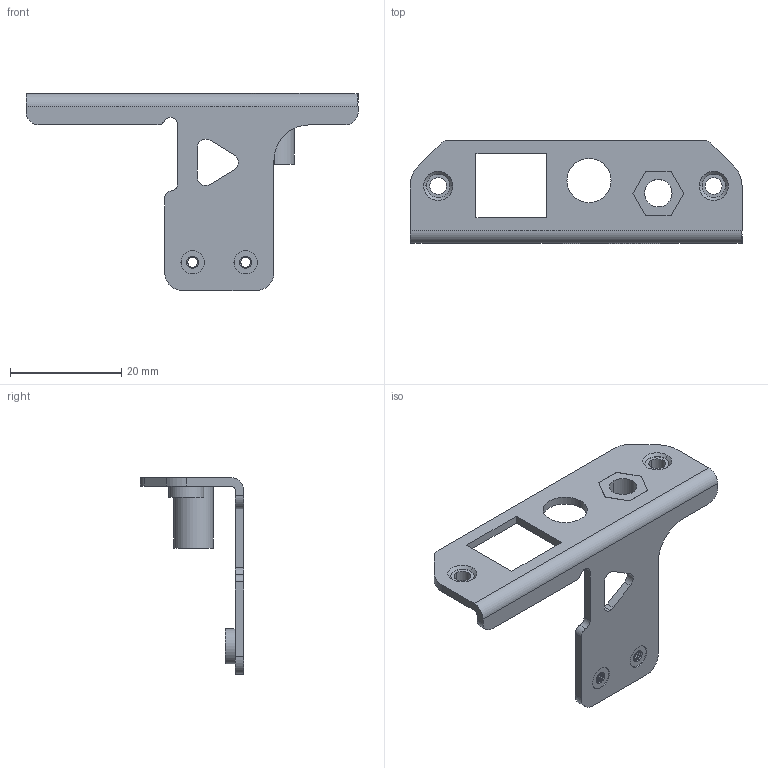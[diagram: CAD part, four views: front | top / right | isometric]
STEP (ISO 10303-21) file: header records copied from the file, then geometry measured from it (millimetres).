
FILE_DESCRIPTION (( 'STEP AP214' ), '1' );
FILE_NAME ('711-00330 RBF Bracket Rev E.STEP', '2016-12-20T23:19:35', ( '' ), ( '' ), 'SwSTEP 2.0', 'SolidWorks 2014', '' );
FILE_SCHEMA (( 'AUTOMOTIVE_DESIGN' ));
Length unit declared in the file: inch
Products named in the file (2): 711-00330 RBF Bracket Rev E
Bounding box: 59.68 x 18.54 x 35.42 mm (x, y, z)
Volume: 2774 mm3; surface area: 4420.6 mm2
Topology: 1 solids, 1 shells, 192 faces, 435 edges, 258 vertices
Faces by surface type: cylinder 87, cone 64, plane 41
Entity records: 6854 total; most frequent: DIRECTION 1029, CARTESIAN_POINT 887, ORIENTED_EDGE 870, EDGE_CURVE 435, AXIS2_PLACEMENT_3D 400, VERTEX_POINT 258, VECTOR 229, LINE 229
